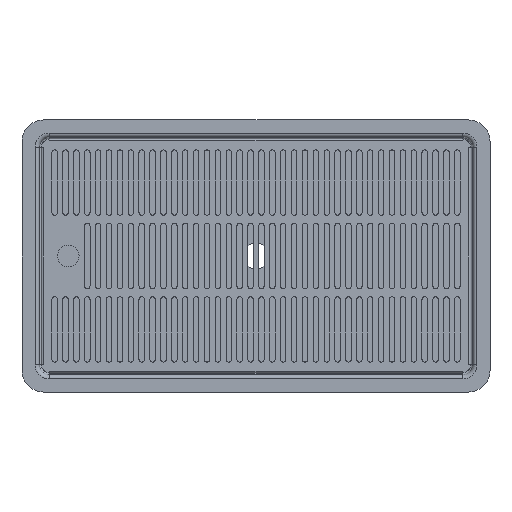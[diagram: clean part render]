
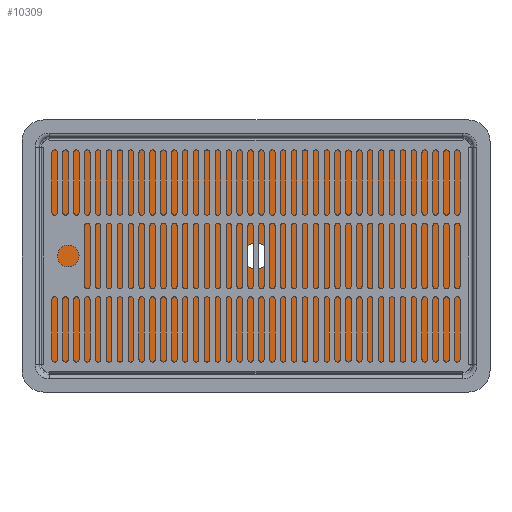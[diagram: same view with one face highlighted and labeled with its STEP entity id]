
A CAD part, top view. The second image highlights one B-rep face of the part: STEP entity #10309.
In plain terms, the highlighted planar face has unit normal (0, 0, 1).
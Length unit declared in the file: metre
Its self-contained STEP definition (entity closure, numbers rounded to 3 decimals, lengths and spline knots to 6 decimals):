
#46=LINE('',#14958,#840);
#47=LINE('',#14974,#841);
#48=LINE('',#14990,#842);
#49=LINE('',#15006,#843);
#840=VECTOR('',#11978,1.);
#841=VECTOR('',#11979,1.);
#842=VECTOR('',#11980,1.);
#843=VECTOR('',#11981,1.);
#1634=B_SPLINE_CURVE_WITH_KNOTS('',3,(#14943,#14944,#14945,#14946,#14947,
#14948,#14949,#14950,#14951,#14952,#14953,#14954,#14955),.UNSPECIFIED.,
 .F.,.F.,(4,1,1,1,1,1,1,1,1,1,4),(0.,0.125,0.1875,0.25,0.375,0.5,0.625,
0.75,0.8125,0.875,1.),.UNSPECIFIED.);
#1635=B_SPLINE_CURVE_WITH_KNOTS('',3,(#14960,#14961,#14962,#14963,#14964,
#14965,#14966,#14967,#14968,#14969,#14970,#14971,#14972),.UNSPECIFIED.,
 .F.,.F.,(4,1,1,1,1,1,1,1,1,1,4),(0.,0.125,0.1875,0.25,0.375,0.5,0.625,
0.75,0.8125,0.875,1.),.UNSPECIFIED.);
#1636=B_SPLINE_CURVE_WITH_KNOTS('',3,(#14976,#14977,#14978,#14979,#14980,
#14981,#14982,#14983,#14984,#14985,#14986,#14987,#14988),.UNSPECIFIED.,
 .F.,.F.,(4,1,1,1,1,1,1,1,1,1,4),(0.,0.125,0.1875,0.25,0.375,0.5,0.625,
0.75,0.8125,0.875,1.),.UNSPECIFIED.);
#1637=B_SPLINE_CURVE_WITH_KNOTS('',3,(#14992,#14993,#14994,#14995,#14996,
#14997,#14998,#14999,#15000,#15001,#15002,#15003,#15004),.UNSPECIFIED.,
 .F.,.F.,(4,1,1,1,1,1,1,1,1,1,4),(0.,0.125,0.1875,0.25,0.375,0.5,0.625,
0.75,0.8125,0.875,1.),.UNSPECIFIED.);
#1888=PLANE('',#10885);
#2158=ORIENTED_EDGE('',*,*,#5325,.F.);
#2159=ORIENTED_EDGE('',*,*,#5326,.F.);
#2160=ORIENTED_EDGE('',*,*,#5327,.F.);
#2161=ORIENTED_EDGE('',*,*,#5328,.F.);
#2162=ORIENTED_EDGE('',*,*,#5329,.F.);
#2163=ORIENTED_EDGE('',*,*,#5330,.F.);
#2164=ORIENTED_EDGE('',*,*,#5331,.F.);
#2165=ORIENTED_EDGE('',*,*,#5332,.F.);
#2166=ORIENTED_EDGE('',*,*,#5333,.F.);
#5325=EDGE_CURVE('',#6909,#6909,#7953,.T.);
#5326=EDGE_CURVE('',#6910,#6911,#1634,.F.);
#5327=EDGE_CURVE('',#6912,#6910,#46,.T.);
#5328=EDGE_CURVE('',#6913,#6912,#1635,.F.);
#5329=EDGE_CURVE('',#6914,#6913,#47,.T.);
#5330=EDGE_CURVE('',#6915,#6914,#1636,.F.);
#5331=EDGE_CURVE('',#6916,#6915,#48,.T.);
#5332=EDGE_CURVE('',#6917,#6916,#1637,.F.);
#5333=EDGE_CURVE('',#6911,#6917,#49,.T.);
#6909=VERTEX_POINT('',#14941);
#6910=VERTEX_POINT('',#14956);
#6911=VERTEX_POINT('',#14957);
#6912=VERTEX_POINT('',#14959);
#6913=VERTEX_POINT('',#14973);
#6914=VERTEX_POINT('',#14975);
#6915=VERTEX_POINT('',#14989);
#6916=VERTEX_POINT('',#14991);
#6917=VERTEX_POINT('',#15005);
#7953=CIRCLE('',#10884,0.011833);
#8490=EDGE_LOOP('',(#2158));
#8491=EDGE_LOOP('',(#2159,#2160,#2161,#2162,#2163,#2164,#2165,#2166));
#9268=FACE_BOUND('',#8490,.T.);
#9269=FACE_BOUND('',#8491,.T.);
#10309=ADVANCED_FACE('',(#9268,#9269),#1888,.F.);
#10884=AXIS2_PLACEMENT_3D('',#14940,#11974,#11975);
#10885=AXIS2_PLACEMENT_3D('',#14942,#11976,#11977);
#11974=DIRECTION('',(0.,0.,1.));
#11975=DIRECTION('',(-1.,0.,0.));
#11976=DIRECTION('',(0.,0.,-1.));
#11977=DIRECTION('',(0.,1.,0.));
#11978=DIRECTION('',(1.,0.,0.));
#11979=DIRECTION('',(0.,1.,0.));
#11980=DIRECTION('',(-1.,0.,0.));
#11981=DIRECTION('',(0.,-1.,0.));
#14940=CARTESIAN_POINT('',(0.,-0.0775,-0.026));
#14941=CARTESIAN_POINT('',(-0.011833,-0.0775,-0.026));
#14942=CARTESIAN_POINT('',(-0.197,-0.1845,-0.026));
#14943=CARTESIAN_POINT('',(0.197,0.0225,-0.026));
#14944=CARTESIAN_POINT('',(0.197,0.022928,-0.026));
#14945=CARTESIAN_POINT('',(0.196947,0.023543,-0.026));
#14946=CARTESIAN_POINT('',(0.196737,0.02444,-0.026));
#14947=CARTESIAN_POINT('',(0.196449,0.025288,-0.026));
#14948=CARTESIAN_POINT('',(0.195903,0.026356,-0.026));
#14949=CARTESIAN_POINT('',(0.194985,0.027485,-0.026));
#14950=CARTESIAN_POINT('',(0.193856,0.028403,-0.026));
#14951=CARTESIAN_POINT('',(0.192788,0.028949,-0.026));
#14952=CARTESIAN_POINT('',(0.191941,0.029237,-0.026));
#14953=CARTESIAN_POINT('',(0.191042,0.029447,-0.026));
#14954=CARTESIAN_POINT('',(0.190428,0.0295,-0.026));
#14955=CARTESIAN_POINT('',(0.19,0.0295,-0.026));
#14956=CARTESIAN_POINT('',(0.19,0.0295,-0.026));
#14957=CARTESIAN_POINT('',(0.197,0.0225,-0.026));
#14958=CARTESIAN_POINT('',(0.,0.0295,-0.026));
#14959=CARTESIAN_POINT('',(-0.19,0.0295,-0.026));
#14960=CARTESIAN_POINT('',(-0.19,0.0295,-0.026));
#14961=CARTESIAN_POINT('',(-0.190428,0.0295,-0.026));
#14962=CARTESIAN_POINT('',(-0.191043,0.029447,-0.026));
#14963=CARTESIAN_POINT('',(-0.19194,0.029237,-0.026));
#14964=CARTESIAN_POINT('',(-0.192788,0.028949,-0.026));
#14965=CARTESIAN_POINT('',(-0.193856,0.028403,-0.026));
#14966=CARTESIAN_POINT('',(-0.194985,0.027485,-0.026));
#14967=CARTESIAN_POINT('',(-0.195903,0.026356,-0.026));
#14968=CARTESIAN_POINT('',(-0.196449,0.025288,-0.026));
#14969=CARTESIAN_POINT('',(-0.196737,0.024441,-0.026));
#14970=CARTESIAN_POINT('',(-0.196947,0.023542,-0.026));
#14971=CARTESIAN_POINT('',(-0.197,0.022928,-0.026));
#14972=CARTESIAN_POINT('',(-0.197,0.0225,-0.026));
#14973=CARTESIAN_POINT('',(-0.197,0.0225,-0.026));
#14974=CARTESIAN_POINT('',(-0.197,-0.0775,-0.026));
#14975=CARTESIAN_POINT('',(-0.197,-0.1775,-0.026));
#14976=CARTESIAN_POINT('',(-0.197,-0.1775,-0.026));
#14977=CARTESIAN_POINT('',(-0.197,-0.177928,-0.026));
#14978=CARTESIAN_POINT('',(-0.196947,-0.178543,-0.026));
#14979=CARTESIAN_POINT('',(-0.196737,-0.17944,-0.026));
#14980=CARTESIAN_POINT('',(-0.196449,-0.180288,-0.026));
#14981=CARTESIAN_POINT('',(-0.195903,-0.181356,-0.026));
#14982=CARTESIAN_POINT('',(-0.194985,-0.182485,-0.026));
#14983=CARTESIAN_POINT('',(-0.193856,-0.183403,-0.026));
#14984=CARTESIAN_POINT('',(-0.192788,-0.183949,-0.026));
#14985=CARTESIAN_POINT('',(-0.191941,-0.184237,-0.026));
#14986=CARTESIAN_POINT('',(-0.191042,-0.184447,-0.026));
#14987=CARTESIAN_POINT('',(-0.190428,-0.1845,-0.026));
#14988=CARTESIAN_POINT('',(-0.19,-0.1845,-0.026));
#14989=CARTESIAN_POINT('',(-0.19,-0.1845,-0.026));
#14990=CARTESIAN_POINT('',(0.,-0.1845,-0.026));
#14991=CARTESIAN_POINT('',(0.19,-0.1845,-0.026));
#14992=CARTESIAN_POINT('',(0.19,-0.1845,-0.026));
#14993=CARTESIAN_POINT('',(0.190428,-0.1845,-0.026));
#14994=CARTESIAN_POINT('',(0.191043,-0.184447,-0.026));
#14995=CARTESIAN_POINT('',(0.19194,-0.184237,-0.026));
#14996=CARTESIAN_POINT('',(0.192788,-0.183949,-0.026));
#14997=CARTESIAN_POINT('',(0.193856,-0.183403,-0.026));
#14998=CARTESIAN_POINT('',(0.194985,-0.182485,-0.026));
#14999=CARTESIAN_POINT('',(0.195903,-0.181356,-0.026));
#15000=CARTESIAN_POINT('',(0.196449,-0.180288,-0.026));
#15001=CARTESIAN_POINT('',(0.196737,-0.179441,-0.026));
#15002=CARTESIAN_POINT('',(0.196947,-0.178542,-0.026));
#15003=CARTESIAN_POINT('',(0.197,-0.177928,-0.026));
#15004=CARTESIAN_POINT('',(0.197,-0.1775,-0.026));
#15005=CARTESIAN_POINT('',(0.197,-0.1775,-0.026));
#15006=CARTESIAN_POINT('',(0.197,-0.0775,-0.026));
